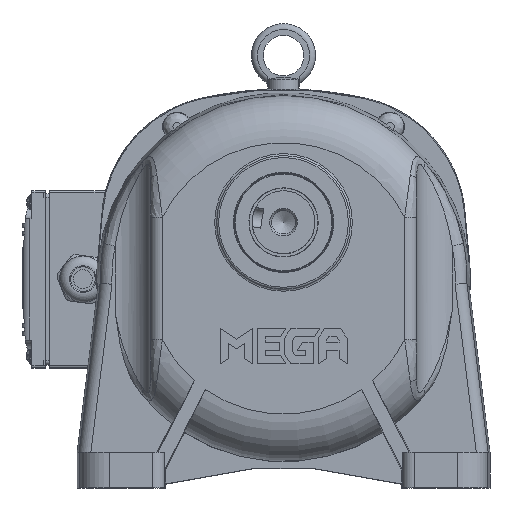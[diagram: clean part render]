
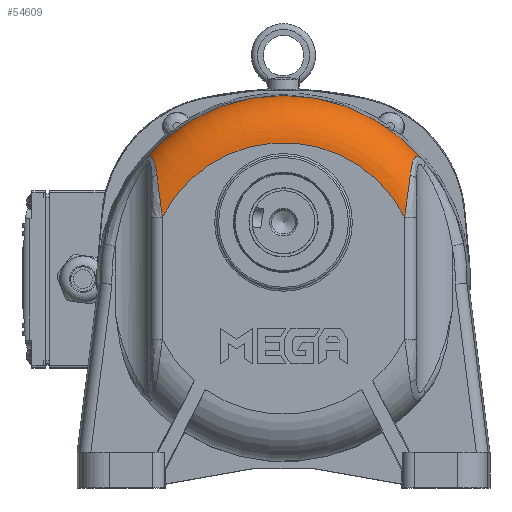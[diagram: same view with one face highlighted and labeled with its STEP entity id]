
A CAD part, top view. The second image highlights one B-rep face of the part: STEP entity #54609.
In plain terms, the highlighted toroidal (fillet/blend) face has major radius 69.054 mm and minor radius 24 mm.
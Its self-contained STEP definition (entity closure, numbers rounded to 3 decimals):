
#646=TOROIDAL_SURFACE('',#59763,69.054,24.);
#11407=FACE_OUTER_BOUND('',#14665,.T.);
#14665=EDGE_LOOP('',(#45342,#45343,#45344,#45345,#45346,#45347));
#17801=CIRCLE('',#59632,93.046);
#17809=CIRCLE('',#59701,69.054);
#19901=B_SPLINE_CURVE_WITH_KNOTS('',3,(#121375,#121376,#121377,#121378,
#121379,#121380,#121381,#121382,#121383),.UNSPECIFIED.,.F.,.F.,(4,1,1,1,
1,1,4),(-1.905,-1.633,-1.361,-1.089,
-0.817,-0.544,0.),.UNSPECIFIED.);
#19903=B_SPLINE_CURVE_WITH_KNOTS('',3,(#121425,#121426,#121427,#121428,
#121429),.UNSPECIFIED.,.F.,.F.,(4,1,4),(-1.959,-0.839,
0.),.UNSPECIFIED.);
#19919=B_SPLINE_CURVE_WITH_KNOTS('',3,(#121871,#121872,#121873,#121874,
#121875,#121876),.UNSPECIFIED.,.F.,.F.,(4,1,1,4),(-1.959,-1.399,
-0.839,0.),.UNSPECIFIED.);
#19921=B_SPLINE_CURVE_WITH_KNOTS('',3,(#121935,#121936,#121937,#121938,
#121939,#121940,#121941,#121942,#121943,#121944),.UNSPECIFIED.,.F.,.F.,
(4,1,1,1,1,1,1,4),(-1.905,-1.633,-1.361,
-1.089,-0.816,-0.544,-0.272,
0.),.UNSPECIFIED.);
#23949=VERTEX_POINT('',#120605);
#23950=VERTEX_POINT('',#120614);
#24067=VERTEX_POINT('',#121104);
#24077=VERTEX_POINT('',#121125);
#24102=VERTEX_POINT('',#121373);
#24124=VERTEX_POINT('',#121869);
#31164=EDGE_CURVE('',#23949,#23950,#17801,.F.);
#31350=EDGE_CURVE('',#24067,#24077,#17809,.T.);
#31390=EDGE_CURVE('',#24102,#23949,#19901,.T.);
#31393=EDGE_CURVE('',#24067,#24102,#19903,.T.);
#31427=EDGE_CURVE('',#24124,#24077,#19919,.T.);
#31430=EDGE_CURVE('',#23950,#24124,#19921,.T.);
#45342=ORIENTED_EDGE('',*,*,#31393,.F.);
#45343=ORIENTED_EDGE('',*,*,#31350,.T.);
#45344=ORIENTED_EDGE('',*,*,#31427,.F.);
#45345=ORIENTED_EDGE('',*,*,#31430,.F.);
#45346=ORIENTED_EDGE('',*,*,#31164,.F.);
#45347=ORIENTED_EDGE('',*,*,#31390,.F.);
#54609=ADVANCED_FACE('',(#11407),#646,.T.);
#59632=AXIS2_PLACEMENT_3D('',#120615,#71698,#71699);
#59701=AXIS2_PLACEMENT_3D('',#121127,#72008,#72009);
#59763=AXIS2_PLACEMENT_3D('',#122057,#72158,#72159);
#71698=DIRECTION('center_axis',(0.,0.,1.));
#71699=DIRECTION('ref_axis',(-1.,0.,0.));
#72008=DIRECTION('center_axis',(0.,0.,-1.));
#72009=DIRECTION('ref_axis',(-1.,0.,0.));
#72158=DIRECTION('center_axis',(0.,0.,-1.));
#72159=DIRECTION('ref_axis',(-1.,0.,0.));
#120605=CARTESIAN_POINT('',(-85.246,18.625,24.628));
#120614=CARTESIAN_POINT('',(57.102,18.625,24.628));
#120615=CARTESIAN_POINT('Origin',(-14.072,-41.307,24.628));
#121104=CARTESIAN_POINT('',(-75.704,-10.164,48.));
#121125=CARTESIAN_POINT('',(47.561,-10.164,48.));
#121127=CARTESIAN_POINT('Origin',(-14.072,-41.307,48.));
#121373=CARTESIAN_POINT('',(-78.49,11.231,43.442));
#121375=CARTESIAN_POINT('Ctrl Pts',(-78.49,11.231,
43.442));
#121376=CARTESIAN_POINT('Ctrl Pts',(-78.615,12.187,
42.934));
#121377=CARTESIAN_POINT('Ctrl Pts',(-78.884,14.085,
41.786));
#121378=CARTESIAN_POINT('Ctrl Pts',(-79.382,16.701,
39.642));
#121379=CARTESIAN_POINT('Ctrl Pts',(-80.061,18.942,
36.961));
#121380=CARTESIAN_POINT('Ctrl Pts',(-81.019,20.464,
33.752));
#121381=CARTESIAN_POINT('Ctrl Pts',(-82.742,20.973,
29.137));
#121382=CARTESIAN_POINT('Ctrl Pts',(-84.271,19.717,26.216));
#121383=CARTESIAN_POINT('Ctrl Pts',(-85.246,18.625,
24.628));
#121425=CARTESIAN_POINT('Ctrl Pts',(-75.704,-10.164,
48.));
#121426=CARTESIAN_POINT('Ctrl Pts',(-76.205,-6.18,
48.));
#121427=CARTESIAN_POINT('Ctrl Pts',(-77.152,1.009,
47.466));
#121428=CARTESIAN_POINT('Ctrl Pts',(-78.106,8.283,
45.006));
#121429=CARTESIAN_POINT('Ctrl Pts',(-78.49,11.231,
43.442));
#121869=CARTESIAN_POINT('',(50.347,11.231,43.442));
#121871=CARTESIAN_POINT('Ctrl Pts',(50.347,11.231,43.442));
#121872=CARTESIAN_POINT('Ctrl Pts',(50.09,9.265,44.485));
#121873=CARTESIAN_POINT('Ctrl Pts',(49.555,5.169,46.121));
#121874=CARTESIAN_POINT('Ctrl Pts',(48.602,-2.074,
47.708));
#121875=CARTESIAN_POINT('Ctrl Pts',(47.936,-7.176,
48.));
#121876=CARTESIAN_POINT('Ctrl Pts',(47.561,-10.164,
48.));
#121935=CARTESIAN_POINT('Ctrl Pts',(57.102,18.625,24.628));
#121936=CARTESIAN_POINT('Ctrl Pts',(56.615,19.171,25.422));
#121937=CARTESIAN_POINT('Ctrl Pts',(55.628,20.126,27.163));
#121938=CARTESIAN_POINT('Ctrl Pts',(54.168,20.848,30.291));
#121939=CARTESIAN_POINT('Ctrl Pts',(52.883,20.469,33.73));
#121940=CARTESIAN_POINT('Ctrl Pts',(51.919,18.949,36.954));
#121941=CARTESIAN_POINT('Ctrl Pts',(51.24,16.705,39.637));
#121942=CARTESIAN_POINT('Ctrl Pts',(50.741,14.089,41.784));
#121943=CARTESIAN_POINT('Ctrl Pts',(50.472,12.187,42.934));
#121944=CARTESIAN_POINT('Ctrl Pts',(50.347,11.231,43.442));
#122057=CARTESIAN_POINT('Origin',(-14.072,-41.307,24.));
